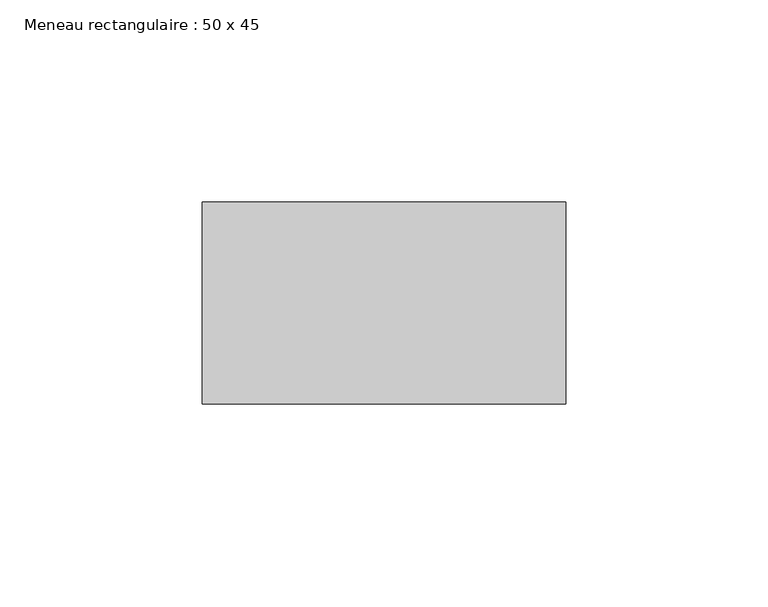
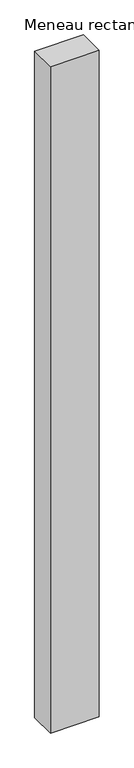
"""IFC4 building model written with IfcOpenShell, lengths in millimetres: member geometry, Meneau rectangulaire : 50 x 45."""

from ifc_helpers import new_model, si_unit, frame, origin, place, context, project, spatial, polyline, outline, extrude, source, transform, mapped, element, save


def meneau_rectangulaire_50_x_45_f8ad0444(model_context):
    return source(origin(), model_context, "Body", "SweptSolid", [
        extrude(outline(polyline([(0.0, 0.0), (0.0, -50.0), (-90.0, -50.0), (-90.0, 0.0), (0.0, 0.0)])), frame((0.0, 0.0, -1303.0347694), z_axis=(0.0, 0.0, 1.0), x_axis=(1.0, 0.0, 0.0)), (0.0, 0.0, 1.0), 1303.0347694),
    ])


if __name__ == "__main__":
    model = new_model("IFC4")
    model_context = context("Model", 3, world=origin())
    ifc_project = project(units=[si_unit("LENGTHUNIT", "METRE", prefix="MILLI")], contexts=[model_context])
    site = spatial("IfcSite", under=ifc_project)
    building = spatial("IfcBuilding", under=site)
    placement = place(None, origin())
    meneau_rectangulaire_50_x_45_shape = meneau_rectangulaire_50_x_45_f8ad0444(model_context)
    element("IfcMember", 1, ObjectType="Meneau rectangulaire : 50 x 45", at=placement, inside=building, context=model_context, shape_type="MappedRepresentation", body=[
        mapped(meneau_rectangulaire_50_x_45_shape, transform((0.0, 0.0, 0.0), x_axis=(1.0, 0.0, 0.0), y_axis=(0.0, 1.0, 0.0), z_axis=(0.0, 0.0, 1.0))),
    ])
    save(model, "model.ifc")
